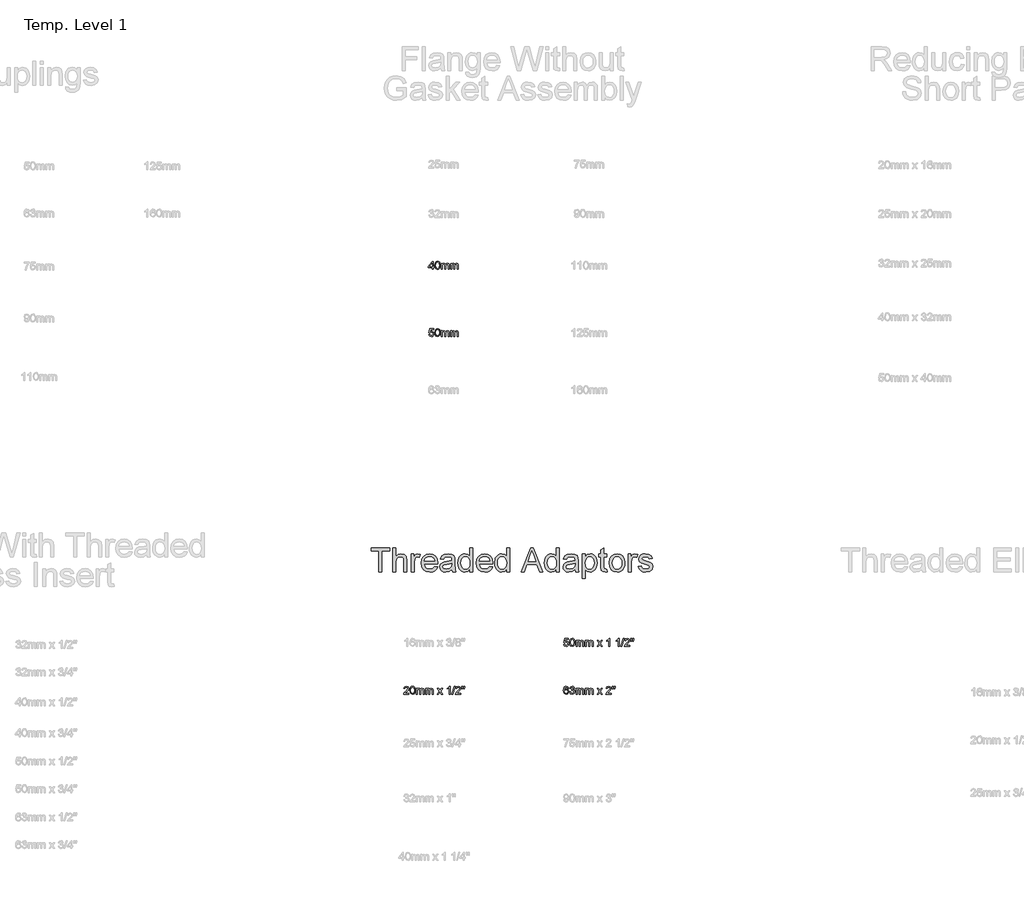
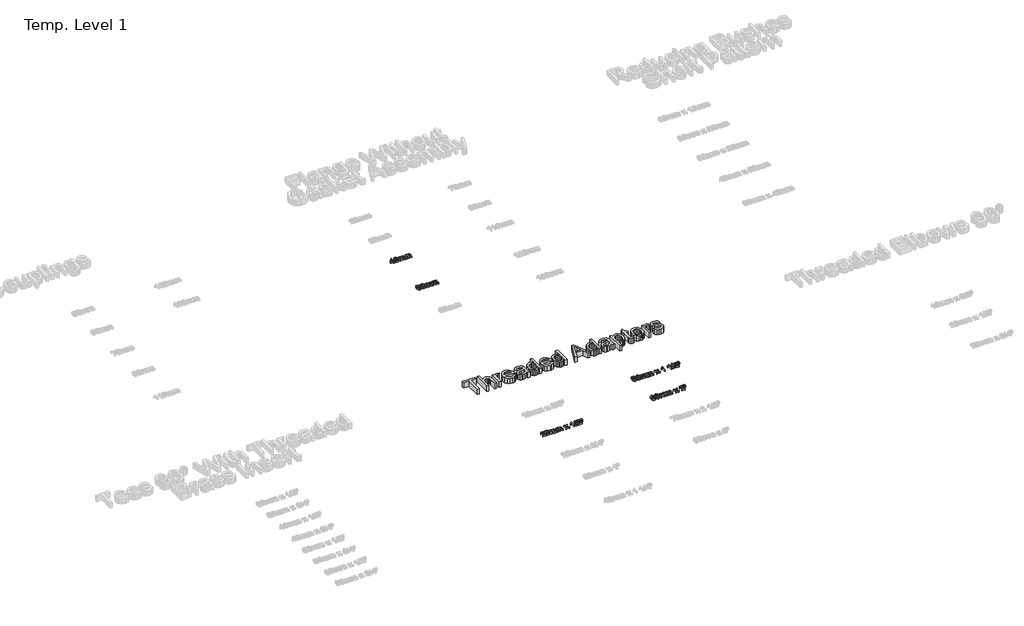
# One storey, part 21 of 62: 6 proxies.
"""IFC4 building model written with IfcOpenShell, lengths in millimetres."""

from ifc_helpers import new_model, si_unit, origin, origin_with_axes, place, context, project, spatial, polyline, outline, extrude, element, save

model = new_model("IFC4")

# Units and contexts
model_context = context("Model", 3, world=origin())
ifc_project = project(units=[si_unit("LENGTHUNIT", "METRE", prefix="MILLI")], contexts=[model_context])

# Site, building, storey
site = spatial("IfcSite", under=ifc_project)
building = spatial("IfcBuilding", under=site)
storey = spatial("IfcBuildingStorey", under=building, Name="Temp. Level 1", Elevation=0.0)

# Proxies
placement = place(None, origin())
element("IfcBuildingElementProxy", 1, Name="150mm Arial", ObjectType="150mm Arial", at=placement, inside=storey, context=model_context, shape_type="SweptSolid", body=[
    extrude(outline(polyline([(20597.6560981, -10070.198517), (20597.6560981, -9940.9677478), (20549.1945596, -9940.9677478), (20549.1945596, -9922.5062093), (20664.579175, -9922.5062093), (20664.579175, -9940.9677478), (20616.1176365, -9940.9677478), (20616.1176365, -10070.198517), (20597.6560981, -10070.198517)])), origin_with_axes(), (0.0, 0.0, 1.0), 50.0),
    extrude(outline(polyline([(20683.0407135, -10070.198517), (20683.0407135, -9922.5062093), (20701.5022519, -9922.5062093), (20701.5022519, -9976.8090939), (20715.8982856, -9963.7742382), (20733.6296558, -9959.4292862), (20754.3628288, -9964.1708728), (20766.9469635, -9977.2778439), (20770.7330212, -10001.5446709), (20770.7330212, -10070.198517), (20752.2714827, -10070.198517), (20752.2714827, -10003.4557286), (20750.8021317, -9991.8992382), (20746.3940788, -9983.9845747), (20739.2907135, -9979.4142622), (20729.735425, -9977.8908247), (20714.6092231, -9982.0014016), (20704.5130692, -9993.1432286), (20701.5022519, -10012.5783247), (20701.5022519, -10070.198517), (20683.0407135, -10070.198517)])), origin_with_axes(), (0.0, 0.0, 1.0), 50.0),
    extrude(outline(polyline([(20796.1176365, -10070.198517), (20796.1176365, -9961.7369786), (20812.2714827, -9961.7369786), (20812.2714827, -9977.7826516), (20823.7378288, -9962.9989978), (20835.2762904, -9959.4292862), (20853.8099442, -9965.1264016), (20847.6440788, -9981.6768824), (20834.6633096, -9977.8908247), (20824.2246077, -9981.5326516), (20817.5719635, -9991.6288055), (20814.579175, -10013.1913055), (20814.579175, -10070.198517), (20796.1176365, -10070.198517)])), origin_with_axes(), (0.0, 0.0, 1.0), 50.0),
    extrude(outline(polyline([(20941.2859058, -10037.8908247), (20959.3868673, -10040.198517), (20952.8649322, -10053.8373391), (20942.4577808, -10064.0326516), (20928.399788, -10070.3878199), (20910.9253288, -10072.5062093), (20889.2636702, -10068.8508608), (20872.5960019, -10057.8848151), (20861.9679971, -10040.3202117), (20858.4253288, -10016.8691901), (20862.0040548, -9992.6294064), (20872.7402327, -9974.5014016), (20889.1825404, -9963.1973151), (20909.8796558, -9959.4292862), (20929.9322399, -9963.1883007), (20945.9553769, -9974.4653439), (20956.461687, -9992.5572911), (20959.9637904, -10016.761017), (20959.8556173, -10021.7369786), (20876.8868673, -10021.7369786), (20880.0824803, -10035.5560891), (20887.5058577, -10045.7153439), (20898.2194995, -10051.9623391), (20911.2859058, -10054.0446709), (20929.3868673, -10050.1864978), (20941.2859058, -10037.8908247)]), holes=[polyline([(20876.8868673, -10003.2754401), (20941.5022519, -10003.2754401), (20939.0052567, -9993.5218343), (20934.110425, -9986.5446709), (20923.3472038, -9980.0542862), (20909.8075404, -9977.8908247), (20897.3631293, -9979.6170867), (20887.0731654, -9984.7958728), (20879.9202207, -9992.8682887), (20876.8868673, -10003.2754401)])]), origin_with_axes(), (0.0, 0.0, 1.0), 50.0),
    extrude(outline(polyline([(21047.6560981, -10056.3523632), (21029.7534538, -10068.8643824), (21009.9758096, -10072.5062093), (20994.5476245, -10070.3157045), (20983.1669154, -10063.7441901), (20976.149187, -10053.7652237), (20973.8099442, -10041.3523632), (20977.3435981, -10026.7489978), (20986.6284538, -10016.1480362), (20999.5551365, -10010.0903439), (21015.5286942, -10007.3139016), (21047.547925, -10000.9677478), (21047.6560981, -9996.8571709), (21046.3850644, -9988.6179882), (21042.5719635, -9983.2273632), (21034.0443192, -9979.2249593), (21022.1633096, -9977.8908247), (21003.485425, -9981.4425074), (20994.579175, -9994.0446709), (20976.1176365, -9991.7369786), (20984.1044154, -9973.7081324), (21000.1861462, -9963.1432286), (21024.5431173, -9959.4292862), (21046.9169154, -9962.7105362), (21059.5551365, -9970.9497189), (21065.2161942, -9983.479767), (21066.1176365, -9999.6336132), (21066.1176365, -10022.6023632), (21067.0551365, -10054.6756805), (21070.7330212, -10070.198517), (21052.2714827, -10070.198517), (21047.6560981, -10056.3523632)]), holes=[polyline([(21047.6560981, -10019.4292862), (21017.8724442, -10025.0903439), (21001.9890308, -10028.0831324), (20994.7955212, -10032.9509209), (20992.2714827, -10040.0542862), (20997.7702808, -10050.042267), (21013.9060981, -10054.0446709), (21032.5839827, -10049.6276036), (21044.6272519, -10038.9364978), (21047.547925, -10024.6576516), (21047.6560981, -10019.4292862)])]), origin_with_axes(), (0.0, 0.0, 1.0), 50.0),
    extrude(outline(polyline([(21158.4253288, -10070.198517), (21158.4253288, -10052.7826516), (21146.2107856, -10067.5753199), (21129.3267712, -10072.5062093), (21117.391675, -10070.7213536), (21106.4661942, -10065.3667862), (21097.2173962, -10056.816606), (21090.3123481, -10045.4449112), (21086.0124683, -10031.7114377), (21084.579175, -10016.0759209), (21089.8616269, -9986.6889016), (21096.4601846, -9975.0332526), (21105.6909538, -9966.4605362), (21116.8553168, -9961.1870987), (21129.2546558, -9959.4292862), (21146.2738865, -9964.4593343), (21158.4253288, -9977.5302478), (21158.4253288, -9922.5062093), (21176.8868673, -9922.5062093), (21176.8868673, -10070.198517), (21158.4253288, -10070.198517)]), holes=[polyline([(21103.0407135, -10016.0038055), (21105.1230452, -10032.7030242), (21111.3700404, -10044.5795266), (21120.4475644, -10051.6783848), (21131.0214827, -10054.0446709), (21141.5908938, -10051.7865579), (21150.43855, -10045.0122189), (21156.4286341, -10033.5954521), (21158.4253288, -10017.4100555), (21156.3925764, -9999.714743), (21150.2943192, -9987.4461132), (21141.2213024, -9980.2796468), (21130.2642712, -9977.8908247), (21119.5821798, -9980.1849954), (21110.829175, -9987.0675074), (21104.9878288, -9998.8899233), (21103.0407135, -10016.0038055)])]), origin_with_axes(), (0.0, 0.0, 1.0), 50.0),
    extrude(outline(polyline([(21280.516675, -10037.8908247), (21298.6176365, -10040.198517), (21292.0957014, -10053.8373391), (21281.68855, -10064.0326516), (21267.6305572, -10070.3878199), (21250.1560981, -10072.5062093), (21228.4944394, -10068.8508608), (21211.8267712, -10057.8848151), (21201.1987663, -10040.3202117), (21197.6560981, -10016.8691901), (21201.234824, -9992.6294064), (21211.9710019, -9974.5014016), (21228.4133096, -9963.1973151), (21249.110425, -9959.4292862), (21269.1630091, -9963.1883007), (21285.1861462, -9974.4653439), (21295.6924563, -9992.5572911), (21299.1945596, -10016.761017), (21299.0863865, -10021.7369786), (21216.1176365, -10021.7369786), (21219.3132495, -10035.5560891), (21226.7366269, -10045.7153439), (21237.4502688, -10051.9623391), (21250.516675, -10054.0446709), (21268.6176365, -10050.1864978), (21280.516675, -10037.8908247)]), holes=[polyline([(21216.1176365, -10003.2754401), (21280.7330212, -10003.2754401), (21278.236026, -9993.5218343), (21273.3411942, -9986.5446709), (21262.5779731, -9980.0542862), (21249.0383096, -9977.8908247), (21236.5938986, -9979.6170867), (21226.3039346, -9984.7958728), (21219.1509899, -9992.8682887), (21216.1176365, -10003.2754401)])]), origin_with_axes(), (0.0, 0.0, 1.0), 50.0),
    extrude(outline(polyline([(21384.579175, -10070.198517), (21384.579175, -10052.7826516), (21372.3646317, -10067.5753199), (21355.4806173, -10072.5062093), (21343.5455212, -10070.7213536), (21332.6200404, -10065.3667862), (21323.3712423, -10056.816606), (21316.4661942, -10045.4449112), (21312.1663144, -10031.7114377), (21310.7330212, -10016.0759209), (21316.0154731, -9986.6889016), (21322.6140308, -9975.0332526), (21331.8448, -9966.4605362), (21343.009163, -9961.1870987), (21355.4085019, -9959.4292862), (21372.4277327, -9964.4593343), (21384.579175, -9977.5302478), (21384.579175, -9922.5062093), (21403.0407135, -9922.5062093), (21403.0407135, -10070.198517), (21384.579175, -10070.198517)]), holes=[polyline([(21329.1945596, -10016.0038055), (21331.2768913, -10032.7030242), (21337.5238865, -10044.5795266), (21346.6014106, -10051.6783848), (21357.1753288, -10054.0446709), (21367.7447399, -10051.7865579), (21376.5923962, -10045.0122189), (21382.5824803, -10033.5954521), (21384.579175, -10017.4100555), (21382.5464226, -9999.714743), (21376.4481654, -9987.4461132), (21367.3751486, -9980.2796468), (21356.4181173, -9977.8908247), (21345.736026, -9980.1849954), (21336.9830212, -9987.0675074), (21331.141675, -9998.8899233), (21329.1945596, -10016.0038055)])]), origin_with_axes(), (0.0, 0.0, 1.0), 50.0),
    extrude(outline(polyline([(21473.5335019, -10070.198517), (21532.4878288, -9922.5062093), (21548.2089827, -9922.5062093), (21607.1633096, -10070.198517), (21587.6560981, -10070.198517), (21570.7450404, -10024.0446709), (21509.9157135, -10024.0446709), (21493.0407135, -10070.198517), (21473.5335019, -10070.198517)]), holes=[polyline([(21516.6945596, -10005.5831324), (21564.0022519, -10005.5831324), (21550.6969635, -9969.2730362), (21540.3484058, -9940.9677478), (21531.1536942, -9966.0999593), (21516.6945596, -10005.5831324)])]), origin_with_axes(), (0.0, 0.0, 1.0), 50.0),
    extrude(outline(polyline([(21691.5022519, -10070.198517), (21691.5022519, -10052.7826516), (21679.2877087, -10067.5753199), (21662.4036942, -10072.5062093), (21650.4685981, -10070.7213536), (21639.5431173, -10065.3667862), (21630.2943192, -10056.816606), (21623.3892712, -10045.4449112), (21619.0893913, -10031.7114377), (21617.6560981, -10016.0759209), (21622.93855, -9986.6889016), (21629.5371077, -9975.0332526), (21638.7678769, -9966.4605362), (21649.9322399, -9961.1870987), (21662.3315788, -9959.4292862), (21679.3508096, -9964.4593343), (21691.5022519, -9977.5302478), (21691.5022519, -9922.5062093), (21709.9637904, -9922.5062093), (21709.9637904, -10070.198517), (21691.5022519, -10070.198517)]), holes=[polyline([(21636.1176365, -10016.0038055), (21638.1999683, -10032.7030242), (21644.4469635, -10044.5795266), (21653.5244875, -10051.6783848), (21664.0984058, -10054.0446709), (21674.6678168, -10051.7865579), (21683.5154731, -10045.0122189), (21689.5055572, -10033.5954521), (21691.5022519, -10017.4100555), (21689.4694995, -9999.714743), (21683.3712423, -9987.4461132), (21674.2982255, -9980.2796468), (21663.3411942, -9977.8908247), (21652.6591029, -9980.1849954), (21643.9060981, -9987.0675074), (21638.0647519, -9998.8899233), (21636.1176365, -10016.0038055)])]), origin_with_axes(), (0.0, 0.0, 1.0), 50.0),
    extrude(outline(polyline([(21806.8868673, -10056.3523632), (21788.9842231, -10068.8643824), (21769.2065788, -10072.5062093), (21753.7783938, -10070.3157045), (21742.3976846, -10063.7441901), (21735.3799563, -10053.7652237), (21733.0407135, -10041.3523632), (21736.5743673, -10026.7489978), (21745.8592231, -10016.1480362), (21758.7859058, -10010.0903439), (21774.7594635, -10007.3139016), (21806.7786942, -10000.9677478), (21806.8868673, -9996.8571709), (21805.6158337, -9988.6179882), (21801.8027327, -9983.2273632), (21793.2750885, -9979.2249593), (21781.3940788, -9977.8908247), (21762.7161942, -9981.4425074), (21753.8099442, -9994.0446709), (21735.3484058, -9991.7369786), (21743.3351846, -9973.7081324), (21759.4169154, -9963.1432286), (21783.7738865, -9959.4292862), (21806.1476846, -9962.7105362), (21818.7859058, -9970.9497189), (21824.4469635, -9983.479767), (21825.3484058, -9999.6336132), (21825.3484058, -10022.6023632), (21826.2859058, -10054.6756805), (21829.9637904, -10070.198517), (21811.5022519, -10070.198517), (21806.8868673, -10056.3523632)]), holes=[polyline([(21806.8868673, -10019.4292862), (21777.1032135, -10025.0903439), (21761.2198, -10028.0831324), (21754.0262904, -10032.9509209), (21751.5022519, -10040.0542862), (21757.00105, -10050.042267), (21773.1368673, -10054.0446709), (21791.8147519, -10049.6276036), (21803.8580212, -10038.9364978), (21806.7786942, -10024.6576516), (21806.8868673, -10019.4292862)])]), origin_with_axes(), (0.0, 0.0, 1.0), 50.0),
    extrude(outline(polyline([(21850.7330212, -10111.7369786), (21850.7330212, -9961.7369786), (21869.1945596, -9961.7369786), (21869.1945596, -9979.8379401), (21881.9589827, -9964.5314497), (21899.1945596, -9959.4292862), (21911.6795356, -9961.214142), (21922.5960019, -9966.5687093), (21931.4842231, -9975.1684689), (21937.8844635, -9986.6889016), (21943.0407135, -10015.1384209), (21941.5848841, -10030.9271829), (21937.2173962, -10045.0482766), (21930.0779731, -10056.7850555), (21920.3063385, -10065.4208728), (21908.9256293, -10070.7348752), (21896.9589827, -10072.5062093), (21880.8952808, -10067.7646228), (21869.1945596, -10055.7754401), (21869.1945596, -10111.7369786), (21850.7330212, -10111.7369786)]), holes=[polyline([(21869.1945596, -10016.8331324), (21871.1912543, -10033.3836132), (21877.1813385, -10044.9581324), (21886.0199803, -10051.7730362), (21896.5623481, -10054.0446709), (21907.2759899, -10051.6919064), (21916.3399923, -10044.6336132), (21922.5193793, -10032.6354161), (21924.579175, -10015.4629401), (21922.5689587, -9999.0026036), (21916.5383096, -9987.2658247), (21907.7131894, -9980.2345747), (21897.3195596, -9977.8908247), (21886.8853649, -9980.3833127), (21877.7222038, -9987.8607766), (21871.3264707, -10000.0888415), (21869.1945596, -10016.8331324)])]), origin_with_axes(), (0.0, 0.0, 1.0), 50.0),
    extrude(outline(polyline([(22003.0407135, -10054.8018824), (22005.3484058, -10070.7393824), (21991.5383096, -10072.5062093), (21976.0695596, -10069.4413055), (21968.3532135, -10061.4004401), (21966.1176365, -10040.4509209), (21966.1176365, -9980.198517), (21952.2714827, -9980.198517), (21952.2714827, -9961.7369786), (21966.1176365, -9961.7369786), (21966.1176365, -9935.3788055), (21984.579175, -9924.5254401), (21984.579175, -9961.7369786), (22003.0407135, -9961.7369786), (22003.0407135, -9980.198517), (21984.579175, -9980.198517), (21984.579175, -10039.9100555), (21985.5527327, -10049.4292862), (21988.7077808, -10052.8006805), (21994.9998481, -10054.0446709), (22003.0407135, -10054.8018824)])), origin_with_axes(), (0.0, 0.0, 1.0), 50.0),
    extrude(outline(polyline([(22016.8868673, -10015.9677478), (22020.8802567, -9989.8169064), (22032.860425, -9971.4364978), (22047.6621077, -9962.4310891), (22065.3844635, -9959.4292862), (22084.7789947, -9963.0846348), (22100.2702808, -9974.0506805), (22110.4250284, -9991.4620387), (22113.8099442, -10014.4533247), (22112.31355, -10033.1041661), (22107.8243673, -10047.3018824), (22100.4731053, -10057.9343944), (22090.3904731, -10065.8896228), (22078.414812, -10070.8520627), (22065.3844635, -10072.5062093), (22045.7555572, -10068.8643824), (22030.2823, -10057.9389016), (22020.2357255, -10040.1624593), (22016.8868673, -10015.9677478)]), holes=[polyline([(22035.3484058, -10015.9316901), (22037.484824, -10032.6399233), (22043.8940788, -10044.5434689), (22053.5395115, -10051.6693704), (22065.3844635, -10054.0446709), (22077.1753288, -10051.6558487), (22086.8027327, -10044.4893824), (22093.2119875, -10032.4280843), (22095.3484058, -10015.354767), (22093.1984659, -9999.1333127), (22086.7486462, -9987.3920266), (22077.1077207, -9980.2661252), (22065.3844635, -9977.8908247), (22053.5395115, -9980.2571108), (22043.8940788, -9987.3559689), (22037.484824, -9999.2324713), (22035.3484058, -10015.9316901)])]), origin_with_axes(), (0.0, 0.0, 1.0), 50.0),
    extrude(outline(polyline([(22134.579175, -10070.198517), (22134.579175, -9961.7369786), (22150.7330212, -9961.7369786), (22150.7330212, -9977.7826516), (22162.1993673, -9962.9989978), (22173.7378288, -9959.4292862), (22192.2714827, -9965.1264016), (22186.1056173, -9981.6768824), (22173.1248481, -9977.8908247), (22162.6861462, -9981.5326516), (22156.0335019, -9991.6288055), (22153.0407135, -10013.1913055), (22153.0407135, -10070.198517), (22134.579175, -10070.198517)])), origin_with_axes(), (0.0, 0.0, 1.0), 50.0),
    extrude(outline(polyline([(22196.8868673, -10037.8908247), (22215.3484058, -10035.5831324), (22218.2600644, -10043.479767), (22223.8940788, -10049.2850555), (22243.4734058, -10054.0446709), (22262.2955212, -10049.6816901), (22268.4253288, -10039.4413055), (22262.2594635, -10031.1480362), (22243.2570596, -10025.8836132), (22215.4565788, -10016.8511612), (22203.3231654, -10006.3042862), (22199.1945596, -9991.4124593), (22202.5118673, -9977.6564497), (22211.5623481, -9967.1456324), (22223.2991269, -9961.682892), (22239.1825404, -9959.4292862), (22261.6464827, -9963.0530843), (22275.9253288, -9972.8607766), (22282.2714827, -9989.4292862), (22263.8099442, -9991.7369786), (22256.8688385, -9981.5506805), (22240.6248481, -9977.8908247), (22222.9565788, -9981.3884209), (22217.6560981, -9989.5374593), (22219.8556173, -9994.9100555), (22226.7426365, -9998.9845747), (22242.6440788, -10002.9148632), (22269.7414346, -10011.604767), (22282.3255692, -10021.448517), (22286.8868673, -10037.4941901), (22281.5323, -10055.1624593), (22266.0815788, -10067.9809689), (22243.2210019, -10072.5062093), (22224.6062183, -10070.3247189), (22211.0214827, -10063.7802478), (22201.9529731, -10052.9449112), (22196.8868673, -10037.8908247)])), origin_with_axes(), (0.0, 0.0, 1.0), 50.0),
])
element("IfcBuildingElementProxy", 2, Name="50mm Arial", ObjectType="50mm Arial", at=placement, inside=storey, context=model_context, shape_type="SweptSolid", body=[
    extrude(outline(polyline([(20925.2361186, -8205.198517), (20925.2361186, -8193.6600555), (20902.9284263, -8193.6600555), (20902.9284263, -8187.5062093), (20926.7745802, -8156.7369786), (20931.3899648, -8156.7369786), (20931.3899648, -8187.5062093), (20937.5438109, -8187.5062093), (20937.5438109, -8193.6600555), (20931.3899648, -8193.6600555), (20931.3899648, -8205.198517), (20925.2361186, -8205.198517)]), holes=[polyline([(20925.2361186, -8187.5062093), (20925.2361186, -8168.4917862), (20910.5005417, -8187.5062093), (20925.2361186, -8187.5062093)])]), origin_with_axes(), (0.0, 0.0, 1.0), 15.0),
    extrude(outline(polyline([(20942.9284263, -8180.979767), (20944.7373206, -8166.8151036), (20950.1099167, -8158.6480362), (20959.0822725, -8155.9677478), (20966.2697725, -8157.5542862), (20971.2337148, -8162.1276036), (20974.1183302, -8169.4112574), (20975.2361186, -8180.979767), (20973.4452533, -8195.0843343), (20968.0906859, -8203.2694305), (20959.0822725, -8205.9677478), (20947.8322725, -8201.2802478), (20944.1543879, -8192.9539257), (20942.9284263, -8180.979767)]), holes=[polyline([(20949.0822725, -8180.9677478), (20951.9668879, -8196.2501997), (20959.0822725, -8199.8139016), (20966.1976571, -8196.2381805), (20969.0822725, -8180.9677478), (20966.2938109, -8165.8595747), (20959.0101571, -8162.1215939), (20952.0630417, -8165.4148632), (20949.0822725, -8180.9677478)])]), origin_with_axes(), (0.0, 0.0, 1.0), 15.0),
    extrude(outline(polyline([(20982.1591956, -8205.198517), (20982.1591956, -8169.0446709), (20988.3130417, -8169.0446709), (20988.3130417, -8174.9941901), (20992.5438109, -8170.120392), (20998.5654456, -8168.2754401), (21004.7313109, -8170.1564497), (21008.120734, -8175.4268824), (21012.9224167, -8170.0633007), (21018.9861186, -8168.2754401), (21027.0329936, -8171.2501997), (21029.8515033, -8180.4148632), (21029.8515033, -8205.198517), (21023.6976571, -8205.198517), (21023.6976571, -8183.0590939), (21023.1267436, -8177.9208728), (21021.0594359, -8175.3908247), (21017.5438109, -8174.4292862), (21011.4921283, -8176.8932286), (21009.0822725, -8184.7898632), (21009.0822725, -8205.198517), (21002.9284263, -8205.198517), (21002.9284263, -8182.3739978), (21001.5041475, -8176.4124593), (20996.8346763, -8174.4292862), (20992.2793879, -8175.7514016), (20989.2505417, -8179.6215939), (20988.3130417, -8186.9653439), (20988.3130417, -8205.198517), (20982.1591956, -8205.198517)])), origin_with_axes(), (0.0, 0.0, 1.0), 15.0),
    extrude(outline(polyline([(21039.0822725, -8205.198517), (21039.0822725, -8169.0446709), (21045.2361186, -8169.0446709), (21045.2361186, -8174.9941901), (21049.4668879, -8170.120392), (21055.4885225, -8168.2754401), (21061.6543879, -8170.1564497), (21065.0438109, -8175.4268824), (21069.8454936, -8170.0633007), (21075.9091956, -8168.2754401), (21083.9560706, -8171.2501997), (21086.7745802, -8180.4148632), (21086.7745802, -8205.198517), (21080.620734, -8205.198517), (21080.620734, -8183.0590939), (21080.0498206, -8177.9208728), (21077.9825129, -8175.3908247), (21074.4668879, -8174.4292862), (21068.4152052, -8176.8932286), (21066.0053494, -8184.7898632), (21066.0053494, -8205.198517), (21059.8515033, -8205.198517), (21059.8515033, -8182.3739978), (21058.4272244, -8176.4124593), (21053.7577533, -8174.4292862), (21049.2024648, -8175.7514016), (21046.1736186, -8179.6215939), (21045.2361186, -8186.9653439), (21045.2361186, -8205.198517), (21039.0822725, -8205.198517)])), origin_with_axes(), (0.0, 0.0, 1.0), 15.0),
])
element("IfcBuildingElementProxy", 3, Name="50mm Arial", ObjectType="50mm Arial", at=placement, inside=storey, context=model_context, shape_type="SweptSolid", body=[
    extrude(outline(polyline([(20905.2361186, -8606.8824542), (20911.3899648, -8606.1132234), (20914.4909263, -8612.4533677), (20920.9212148, -8614.5747619), (20928.6375609, -8611.6240407), (20931.3899648, -8603.7935119), (20928.8118398, -8596.4858196), (20921.0173686, -8593.8055311), (20915.6147244, -8594.8752427), (20912.1591956, -8597.651685), (20906.0053494, -8596.8824542), (20911.3899648, -8571.4978388), (20935.2361186, -8571.4978388), (20935.2361186, -8577.651685), (20916.3659263, -8577.651685), (20913.7337148, -8591.2093773), (20922.7361186, -8587.651685), (20933.2589552, -8592.0627427), (20937.5438109, -8603.4088965), (20933.6856379, -8614.8271657), (20928.1447725, -8619.2532475), (20920.8971763, -8620.728608), (20910.0378013, -8616.9365407), (20905.2361186, -8606.8824542)])), origin_with_axes(), (0.0, 0.0, 1.0), 15.0),
    extrude(outline(polyline([(20942.9284263, -8595.7406273), (20944.7373206, -8581.5759638), (20950.1099167, -8573.4088965), (20959.0822725, -8570.728608), (20966.2697725, -8572.3151465), (20971.2337148, -8576.8884638), (20974.1183302, -8584.1721177), (20975.2361186, -8595.7406273), (20973.4452533, -8609.8451946), (20968.0906859, -8618.0302907), (20959.0822725, -8620.728608), (20947.8322725, -8616.041108), (20944.1543879, -8607.7147859), (20942.9284263, -8595.7406273)]), holes=[polyline([(20949.0822725, -8595.728608), (20951.9668879, -8611.01106), (20959.0822725, -8614.5747619), (20966.1976571, -8610.9990407), (20969.0822725, -8595.728608), (20966.2938109, -8580.620435), (20959.0101571, -8576.8824542), (20952.0630417, -8580.1757234), (20949.0822725, -8595.728608)])]), origin_with_axes(), (0.0, 0.0, 1.0), 15.0),
    extrude(outline(polyline([(20982.1591956, -8619.9593773), (20982.1591956, -8583.8055311), (20988.3130417, -8583.8055311), (20988.3130417, -8589.7550504), (20992.5438109, -8584.8812523), (20998.5654456, -8583.0363004), (21004.7313109, -8584.91731), (21008.120734, -8590.1877427), (21012.9224167, -8584.8241609), (21018.9861186, -8583.0363004), (21027.0329936, -8586.01106), (21029.8515033, -8595.1757234), (21029.8515033, -8619.9593773), (21023.6976571, -8619.9593773), (21023.6976571, -8597.8199542), (21023.1267436, -8592.681733), (21021.0594359, -8590.151685), (21017.5438109, -8589.1901465), (21011.4921283, -8591.6540888), (21009.0822725, -8599.5507234), (21009.0822725, -8619.9593773), (21002.9284263, -8619.9593773), (21002.9284263, -8597.134858), (21001.5041475, -8591.1733196), (20996.8346763, -8589.1901465), (20992.2793879, -8590.5122619), (20989.2505417, -8594.3824542), (20988.3130417, -8601.7262042), (20988.3130417, -8619.9593773), (20982.1591956, -8619.9593773)])), origin_with_axes(), (0.0, 0.0, 1.0), 15.0),
    extrude(outline(polyline([(21039.0822725, -8619.9593773), (21039.0822725, -8583.8055311), (21045.2361186, -8583.8055311), (21045.2361186, -8589.7550504), (21049.4668879, -8584.8812523), (21055.4885225, -8583.0363004), (21061.6543879, -8584.91731), (21065.0438109, -8590.1877427), (21069.8454936, -8584.8241609), (21075.9091956, -8583.0363004), (21083.9560706, -8586.01106), (21086.7745802, -8595.1757234), (21086.7745802, -8619.9593773), (21080.620734, -8619.9593773), (21080.620734, -8597.8199542), (21080.0498206, -8592.681733), (21077.9825129, -8590.151685), (21074.4668879, -8589.1901465), (21068.4152052, -8591.6540888), (21066.0053494, -8599.5507234), (21066.0053494, -8619.9593773), (21059.8515033, -8619.9593773), (21059.8515033, -8597.134858), (21058.4272244, -8591.1733196), (21053.7577533, -8589.1901465), (21049.2024648, -8590.5122619), (21046.1736186, -8594.3824542), (21045.2361186, -8601.7262042), (21045.2361186, -8619.9593773), (21039.0822725, -8619.9593773)])), origin_with_axes(), (0.0, 0.0, 1.0), 15.0),
])
element("IfcBuildingElementProxy", 4, Name="50mm Arial", ObjectType="50mm Arial", at=placement, inside=storey, context=model_context, shape_type="SweptSolid", body=[
    extrude(outline(polyline([(20782.7136124, -10819.0446709), (20782.7136124, -10825.198517), (20750.4059201, -10825.198517), (20751.0669778, -10820.9557286), (20754.8049586, -10814.4232766), (20762.5092855, -10807.2898632), (20773.1342855, -10797.0374593), (20775.7905355, -10790.0663055), (20773.2845259, -10784.4232766), (20766.7400547, -10782.1215939), (20759.9191413, -10784.3691901), (20757.3289971, -10790.5831324), (20751.1751509, -10789.8139016), (20755.892699, -10779.5134209), (20766.8722663, -10775.9677478), (20777.8878913, -10779.9100555), (20781.9443817, -10789.6937093), (20780.8506317, -10795.5290459), (20777.2148144, -10801.5626997), (20768.3987086, -10809.9941901), (20761.3193817, -10815.9136612), (20758.5429394, -10819.0446709), (20782.7136124, -10819.0446709)])), origin_with_axes(), (0.0, 0.0, 1.0), 15.0),
    extrude(outline(polyline([(20788.8674586, -10800.979767), (20790.6763528, -10786.8151036), (20796.048949, -10778.6480362), (20805.0213047, -10775.9677478), (20812.2088047, -10777.5542862), (20817.1727471, -10782.1276036), (20820.0573624, -10789.4112574), (20821.1751509, -10800.979767), (20819.3842855, -10815.0843343), (20814.0297182, -10823.2694305), (20805.0213047, -10825.9677478), (20793.7713047, -10821.2802478), (20790.0934201, -10812.9539257), (20788.8674586, -10800.979767)]), holes=[polyline([(20795.0213047, -10800.9677478), (20797.9059201, -10816.2501997), (20805.0213047, -10819.8139016), (20812.1366894, -10816.2381805), (20815.0213047, -10800.9677478), (20812.2328432, -10785.8595747), (20804.9491894, -10782.1215939), (20798.002074, -10785.4148632), (20795.0213047, -10800.9677478)])]), origin_with_axes(), (0.0, 0.0, 1.0), 15.0),
    extrude(outline(polyline([(20828.0982278, -10825.198517), (20828.0982278, -10789.0446709), (20834.252074, -10789.0446709), (20834.252074, -10794.9941901), (20838.4828432, -10790.120392), (20844.5044778, -10788.2754401), (20850.6703432, -10790.1564497), (20854.0597663, -10795.4268824), (20858.861449, -10790.0633007), (20864.9251509, -10788.2754401), (20872.9720259, -10791.2501997), (20875.7905355, -10800.4148632), (20875.7905355, -10825.198517), (20869.6366894, -10825.198517), (20869.6366894, -10803.0590939), (20869.0657759, -10797.9208728), (20866.9984682, -10795.3908247), (20863.4828432, -10794.4292862), (20857.4311605, -10796.8932286), (20855.0213047, -10804.7898632), (20855.0213047, -10825.198517), (20848.8674586, -10825.198517), (20848.8674586, -10802.3739978), (20847.4431797, -10796.4124593), (20842.7737086, -10794.4292862), (20838.2184201, -10795.7514016), (20835.189574, -10799.6215939), (20834.252074, -10806.9653439), (20834.252074, -10825.198517), (20828.0982278, -10825.198517)])), origin_with_axes(), (0.0, 0.0, 1.0), 15.0),
    extrude(outline(polyline([(20885.0213047, -10825.198517), (20885.0213047, -10789.0446709), (20891.1751509, -10789.0446709), (20891.1751509, -10794.9941901), (20895.4059201, -10790.120392), (20901.4275547, -10788.2754401), (20907.5934201, -10790.1564497), (20910.9828432, -10795.4268824), (20915.7845259, -10790.0633007), (20921.8482278, -10788.2754401), (20929.8951028, -10791.2501997), (20932.7136124, -10800.4148632), (20932.7136124, -10825.198517), (20926.5597663, -10825.198517), (20926.5597663, -10803.0590939), (20925.9888528, -10797.9208728), (20923.9215451, -10795.3908247), (20920.4059201, -10794.4292862), (20914.3542374, -10796.8932286), (20911.9443817, -10804.7898632), (20911.9443817, -10825.198517), (20905.7905355, -10825.198517), (20905.7905355, -10802.3739978), (20904.3662567, -10796.4124593), (20899.6967855, -10794.4292862), (20895.1414971, -10795.7514016), (20892.1126509, -10799.6215939), (20891.1751509, -10806.9653439), (20891.1751509, -10825.198517), (20885.0213047, -10825.198517)])), origin_with_axes(), (0.0, 0.0, 1.0), 15.0),
    extrude(outline(polyline([(20957.3289971, -10825.198517), (20970.4780355, -10807.0254401), (20958.0982278, -10789.0446709), (20965.502074, -10789.0446709), (20971.4756317, -10797.698517), (20974.2640932, -10801.7850555), (20976.6799586, -10798.4437093), (20983.4828432, -10789.0446709), (20990.8866894, -10789.0446709), (20977.8818817, -10807.0254401), (20990.4059201, -10825.198517), (20983.002074, -10825.198517), (20975.4660163, -10814.2730362), (20974.0838047, -10812.2778439), (20964.7328432, -10825.198517), (20957.3289971, -10825.198517)])), origin_with_axes(), (0.0, 0.0, 1.0), 15.0),
    extrude(outline(polyline([(21036.5597663, -10825.198517), (21030.4059201, -10825.198517), (21030.4059201, -10786.8331324), (21024.5765932, -10790.9857766), (21018.0982278, -10794.0927478), (21018.0982278, -10788.2754401), (21027.1186605, -10782.5182286), (21032.5934201, -10775.9677478), (21036.5597663, -10775.9677478), (21036.5597663, -10825.198517)])), origin_with_axes(), (0.0, 0.0, 1.0), 15.0),
    extrude(outline(polyline([(21048.0982278, -10825.198517), (21061.9443817, -10775.9677478), (21067.4972663, -10775.9677478), (21053.6511124, -10825.198517), (21048.0982278, -10825.198517)])), origin_with_axes(), (0.0, 0.0, 1.0), 15.0),
    extrude(outline(polyline([(21101.9443817, -10819.0446709), (21101.9443817, -10825.198517), (21069.6366894, -10825.198517), (21070.2977471, -10820.9557286), (21074.0357278, -10814.4232766), (21081.7400547, -10807.2898632), (21092.3650547, -10797.0374593), (21095.0213047, -10790.0663055), (21092.5152951, -10784.4232766), (21085.970824, -10782.1215939), (21079.1499105, -10784.3691901), (21076.5597663, -10790.5831324), (21070.4059201, -10789.8139016), (21075.1234682, -10779.5134209), (21086.1030355, -10775.9677478), (21097.1186605, -10779.9100555), (21101.1751509, -10789.6937093), (21100.0814009, -10795.5290459), (21096.4455836, -10801.5626997), (21087.6294778, -10809.9941901), (21080.5501509, -10815.9136612), (21077.7737086, -10819.0446709), (21101.9443817, -10819.0446709)])), origin_with_axes(), (0.0, 0.0, 1.0), 15.0),
    extrude(outline(polyline([(21121.8722663, -10793.6600555), (21120.4059201, -10784.1528439), (21120.4059201, -10775.9677478), (21126.5597663, -10775.9677478), (21126.5597663, -10784.1528439), (21125.1174586, -10793.6600555), (21121.8722663, -10793.6600555)])), origin_with_axes(), (0.0, 0.0, 1.0), 15.0),
    extrude(outline(polyline([(21109.6006317, -10793.6600555), (21108.0982278, -10784.1528439), (21108.0982278, -10775.9677478), (21114.252074, -10775.9677478), (21114.252074, -10784.1528439), (21112.9059201, -10793.6600555), (21109.6006317, -10793.6600555)])), origin_with_axes(), (0.0, 0.0, 1.0), 15.0),
])
element("IfcBuildingElementProxy", 5, Name="50mm Arial", ObjectType="50mm Arial", at=placement, inside=storey, context=model_context, shape_type="SweptSolid", body=[
    extrude(outline(polyline([(21735.8008487, -10517.1215939), (21741.9546948, -10516.3523632), (21745.0556564, -10522.6925074), (21751.4859448, -10524.8139016), (21759.202291, -10521.8631805), (21761.9546948, -10514.0326516), (21759.3765698, -10506.7249593), (21751.5820987, -10504.0446709), (21746.1794545, -10505.1143824), (21742.7239256, -10507.8908247), (21736.5700795, -10507.1215939), (21741.9546948, -10481.7369786), (21765.8008487, -10481.7369786), (21765.8008487, -10487.8908247), (21746.9306564, -10487.8908247), (21744.2984448, -10501.448517), (21753.3008487, -10497.8908247), (21763.8236852, -10502.3018824), (21768.108541, -10513.6480362), (21764.2503679, -10525.0663055), (21758.7095025, -10529.4923872), (21751.4619064, -10530.9677478), (21740.6025314, -10527.1756805), (21735.8008487, -10517.1215939)])), origin_with_axes(), (0.0, 0.0, 1.0), 15.0),
    extrude(outline(polyline([(21773.4931564, -10505.979767), (21775.3020506, -10491.8151036), (21780.6746468, -10483.6480362), (21789.6470025, -10480.9677478), (21796.8345025, -10482.5542862), (21801.7984448, -10487.1276036), (21804.6830602, -10494.4112574), (21805.8008487, -10505.979767), (21804.0099833, -10520.0843343), (21798.655416, -10528.2694305), (21789.6470025, -10530.9677478), (21778.3970025, -10526.2802478), (21774.7191179, -10517.9539257), (21773.4931564, -10505.979767)]), holes=[polyline([(21779.6470025, -10505.9677478), (21782.5316179, -10521.2501997), (21789.6470025, -10524.8139016), (21796.7623871, -10521.2381805), (21799.6470025, -10505.9677478), (21796.858541, -10490.8595747), (21789.5748871, -10487.1215939), (21782.6277718, -10490.4148632), (21779.6470025, -10505.9677478)])]), origin_with_axes(), (0.0, 0.0, 1.0), 15.0),
    extrude(outline(polyline([(21812.7239256, -10530.198517), (21812.7239256, -10494.0446709), (21818.8777718, -10494.0446709), (21818.8777718, -10499.9941901), (21823.108541, -10495.120392), (21829.1301756, -10493.2754401), (21835.296041, -10495.1564497), (21838.6854641, -10500.4268824), (21843.4871468, -10495.0633007), (21849.5508487, -10493.2754401), (21857.5977237, -10496.2501997), (21860.4162333, -10505.4148632), (21860.4162333, -10530.198517), (21854.2623871, -10530.198517), (21854.2623871, -10508.0590939), (21853.6914737, -10502.9208728), (21851.624166, -10500.3908247), (21848.108541, -10499.4292862), (21842.0568583, -10501.8932286), (21839.6470025, -10509.7898632), (21839.6470025, -10530.198517), (21833.4931564, -10530.198517), (21833.4931564, -10507.3739978), (21832.0688775, -10501.4124593), (21827.3994064, -10499.4292862), (21822.8441179, -10500.7514016), (21819.8152718, -10504.6215939), (21818.8777718, -10511.9653439), (21818.8777718, -10530.198517), (21812.7239256, -10530.198517)])), origin_with_axes(), (0.0, 0.0, 1.0), 15.0),
    extrude(outline(polyline([(21869.6470025, -10530.198517), (21869.6470025, -10494.0446709), (21875.8008487, -10494.0446709), (21875.8008487, -10499.9941901), (21880.0316179, -10495.120392), (21886.0532525, -10493.2754401), (21892.2191179, -10495.1564497), (21895.608541, -10500.4268824), (21900.4102237, -10495.0633007), (21906.4739256, -10493.2754401), (21914.5208006, -10496.2501997), (21917.3393102, -10505.4148632), (21917.3393102, -10530.198517), (21911.1854641, -10530.198517), (21911.1854641, -10508.0590939), (21910.6145506, -10502.9208728), (21908.5472429, -10500.3908247), (21905.0316179, -10499.4292862), (21898.9799352, -10501.8932286), (21896.5700795, -10509.7898632), (21896.5700795, -10530.198517), (21890.4162333, -10530.198517), (21890.4162333, -10507.3739978), (21888.9919545, -10501.4124593), (21884.3224833, -10499.4292862), (21879.7671948, -10500.7514016), (21876.7383487, -10504.6215939), (21875.8008487, -10511.9653439), (21875.8008487, -10530.198517), (21869.6470025, -10530.198517)])), origin_with_axes(), (0.0, 0.0, 1.0), 15.0),
    extrude(outline(polyline([(21941.9546948, -10530.198517), (21955.1037333, -10512.0254401), (21942.7239256, -10494.0446709), (21950.1277718, -10494.0446709), (21956.1013295, -10502.698517), (21958.889791, -10506.7850555), (21961.3056564, -10503.4437093), (21968.108541, -10494.0446709), (21975.5123871, -10494.0446709), (21962.5075795, -10512.0254401), (21975.0316179, -10530.198517), (21967.6277718, -10530.198517), (21960.0917141, -10519.2730362), (21958.7095025, -10517.2778439), (21949.358541, -10530.198517), (21941.9546948, -10530.198517)])), origin_with_axes(), (0.0, 0.0, 1.0), 15.0),
    extrude(outline(polyline([(22021.1854641, -10530.198517), (22015.0316179, -10530.198517), (22015.0316179, -10491.8331324), (22009.202291, -10495.9857766), (22002.7239256, -10499.0927478), (22002.7239256, -10493.2754401), (22011.7443583, -10487.5182286), (22017.2191179, -10480.9677478), (22021.1854641, -10480.9677478), (22021.1854641, -10530.198517)])), origin_with_axes(), (0.0, 0.0, 1.0), 15.0),
    extrude(outline(polyline([(22078.108541, -10530.198517), (22071.9546948, -10530.198517), (22071.9546948, -10491.8331324), (22066.1253679, -10495.9857766), (22059.6470025, -10499.0927478), (22059.6470025, -10493.2754401), (22068.6674352, -10487.5182286), (22074.1421948, -10480.9677478), (22078.108541, -10480.9677478), (22078.108541, -10530.198517)])), origin_with_axes(), (0.0, 0.0, 1.0), 15.0),
    extrude(outline(polyline([(22089.6470025, -10530.198517), (22103.4931564, -10480.9677478), (22109.046041, -10480.9677478), (22095.1998871, -10530.198517), (22089.6470025, -10530.198517)])), origin_with_axes(), (0.0, 0.0, 1.0), 15.0),
    extrude(outline(polyline([(22143.4931564, -10524.0446709), (22143.4931564, -10530.198517), (22111.1854641, -10530.198517), (22111.8465218, -10525.9557286), (22115.5845025, -10519.4232766), (22123.2888295, -10512.2898632), (22133.9138295, -10502.0374593), (22136.5700795, -10495.0663055), (22134.0640698, -10489.4232766), (22127.5195987, -10487.1215939), (22120.6986852, -10489.3691901), (22118.108541, -10495.5831324), (22111.9546948, -10494.8139016), (22116.6722429, -10484.5134209), (22127.6518102, -10480.9677478), (22138.6674352, -10484.9100555), (22142.7239256, -10494.6937093), (22141.6301756, -10500.5290459), (22137.9943583, -10506.5626997), (22129.1782525, -10514.9941901), (22122.0989256, -10520.9136612), (22119.3224833, -10524.0446709), (22143.4931564, -10524.0446709)])), origin_with_axes(), (0.0, 0.0, 1.0), 15.0),
    extrude(outline(polyline([(22163.421041, -10498.6600555), (22161.9546948, -10489.1528439), (22161.9546948, -10480.9677478), (22168.108541, -10480.9677478), (22168.108541, -10489.1528439), (22166.6662333, -10498.6600555), (22163.421041, -10498.6600555)])), origin_with_axes(), (0.0, 0.0, 1.0), 15.0),
    extrude(outline(polyline([(22151.1494064, -10498.6600555), (22149.6470025, -10489.1528439), (22149.6470025, -10480.9677478), (22155.8008487, -10480.9677478), (22155.8008487, -10489.1528439), (22154.4546948, -10498.6600555), (22151.1494064, -10498.6600555)])), origin_with_axes(), (0.0, 0.0, 1.0), 15.0),
])
element("IfcBuildingElementProxy", 6, Name="50mm Arial", ObjectType="50mm Arial", at=placement, inside=storey, context=model_context, shape_type="SweptSolid", body=[
    extrude(outline(polyline([(21767.3393102, -10789.0446709), (21761.1854641, -10789.8139016), (21758.8537333, -10784.6816901), (21752.6878679, -10782.1215939), (21747.1349833, -10783.6119786), (21742.9342621, -10789.2069305), (21741.1854641, -10800.1744786), (21746.6121468, -10795.2646228), (21753.3369064, -10793.6600555), (21763.7936371, -10798.0470747), (21768.108541, -10809.3812093), (21766.077291, -10817.8727959), (21760.4883487, -10823.8824112), (21752.4234448, -10825.9677478), (21739.8813775, -10820.4389016), (21736.2440578, -10813.1191901), (21735.0316179, -10802.2177478), (21736.3777718, -10789.9611372), (21740.4162333, -10781.5807286), (21745.9300554, -10777.370993), (21753.0724833, -10775.9677478), (21762.796041, -10779.4413055), (21767.3393102, -10789.0446709)]), holes=[polyline([(21741.1854641, -10809.2850555), (21742.6097429, -10814.6155843), (21746.3958006, -10818.4857766), (21751.9426756, -10819.8139016), (21759.1962814, -10817.0614978), (21761.9546948, -10809.5855362), (21759.2323391, -10802.4280843), (21751.6902718, -10799.8139016), (21744.2443583, -10802.4280843), (21741.1854641, -10809.2850555)])]), origin_with_axes(), (0.0, 0.0, 1.0), 15.0),
    extrude(outline(polyline([(21773.4931564, -10812.1215939), (21779.6470025, -10811.3523632), (21783.0424352, -10817.8307286), (21789.3945987, -10819.8139016), (21796.8705602, -10817.0855362), (21799.6470025, -10810.3307286), (21796.8945987, -10803.9665459), (21789.8994064, -10801.448517), (21785.5845025, -10802.1215939), (21786.2695987, -10795.9677478), (21794.2383487, -10794.2730362), (21797.3393102, -10788.8403439), (21795.0917141, -10784.026642), (21789.2984448, -10782.1215939), (21783.4330602, -10784.0446709), (21780.4162333, -10789.8139016), (21774.2623871, -10789.0446709), (21779.2984448, -10779.3932286), (21789.0820987, -10775.9677478), (21796.5039737, -10777.6564497), (21801.6962814, -10782.2718343), (21803.4931564, -10788.479767), (21801.7864256, -10794.1528439), (21796.7383487, -10798.2273632), (21803.4450795, -10802.4340939), (21805.8008487, -10810.4389016), (21801.0893102, -10821.448517), (21789.1782525, -10825.9677478), (21778.3849833, -10822.1095747), (21773.4931564, -10812.1215939)])), origin_with_axes(), (0.0, 0.0, 1.0), 15.0),
    extrude(outline(polyline([(21812.7239256, -10825.198517), (21812.7239256, -10789.0446709), (21818.8777718, -10789.0446709), (21818.8777718, -10794.9941901), (21823.108541, -10790.120392), (21829.1301756, -10788.2754401), (21835.296041, -10790.1564497), (21838.6854641, -10795.4268824), (21843.4871468, -10790.0633007), (21849.5508487, -10788.2754401), (21857.5977237, -10791.2501997), (21860.4162333, -10800.4148632), (21860.4162333, -10825.198517), (21854.2623871, -10825.198517), (21854.2623871, -10803.0590939), (21853.6914737, -10797.9208728), (21851.624166, -10795.3908247), (21848.108541, -10794.4292862), (21842.0568583, -10796.8932286), (21839.6470025, -10804.7898632), (21839.6470025, -10825.198517), (21833.4931564, -10825.198517), (21833.4931564, -10802.3739978), (21832.0688775, -10796.4124593), (21827.3994064, -10794.4292862), (21822.8441179, -10795.7514016), (21819.8152718, -10799.6215939), (21818.8777718, -10806.9653439), (21818.8777718, -10825.198517), (21812.7239256, -10825.198517)])), origin_with_axes(), (0.0, 0.0, 1.0), 15.0),
    extrude(outline(polyline([(21869.6470025, -10825.198517), (21869.6470025, -10789.0446709), (21875.8008487, -10789.0446709), (21875.8008487, -10794.9941901), (21880.0316179, -10790.120392), (21886.0532525, -10788.2754401), (21892.2191179, -10790.1564497), (21895.608541, -10795.4268824), (21900.4102237, -10790.0633007), (21906.4739256, -10788.2754401), (21914.5208006, -10791.2501997), (21917.3393102, -10800.4148632), (21917.3393102, -10825.198517), (21911.1854641, -10825.198517), (21911.1854641, -10803.0590939), (21910.6145506, -10797.9208728), (21908.5472429, -10795.3908247), (21905.0316179, -10794.4292862), (21898.9799352, -10796.8932286), (21896.5700795, -10804.7898632), (21896.5700795, -10825.198517), (21890.4162333, -10825.198517), (21890.4162333, -10802.3739978), (21888.9919545, -10796.4124593), (21884.3224833, -10794.4292862), (21879.7671948, -10795.7514016), (21876.7383487, -10799.6215939), (21875.8008487, -10806.9653439), (21875.8008487, -10825.198517), (21869.6470025, -10825.198517)])), origin_with_axes(), (0.0, 0.0, 1.0), 15.0),
    extrude(outline(polyline([(21941.9546948, -10825.198517), (21955.1037333, -10807.0254401), (21942.7239256, -10789.0446709), (21950.1277718, -10789.0446709), (21956.1013295, -10797.698517), (21958.889791, -10801.7850555), (21961.3056564, -10798.4437093), (21968.108541, -10789.0446709), (21975.5123871, -10789.0446709), (21962.5075795, -10807.0254401), (21975.0316179, -10825.198517), (21967.6277718, -10825.198517), (21960.0917141, -10814.2730362), (21958.7095025, -10812.2778439), (21949.358541, -10825.198517), (21941.9546948, -10825.198517)])), origin_with_axes(), (0.0, 0.0, 1.0), 15.0),
    extrude(outline(polyline([(22029.6470025, -10819.0446709), (22029.6470025, -10825.198517), (21997.3393102, -10825.198517), (21998.0003679, -10820.9557286), (22001.7383487, -10814.4232766), (22009.4426756, -10807.2898632), (22020.0676756, -10797.0374593), (22022.7239256, -10790.0663055), (22020.217916, -10784.4232766), (22013.6734448, -10782.1215939), (22006.8525314, -10784.3691901), (22004.2623871, -10790.5831324), (21998.108541, -10789.8139016), (22002.8260891, -10779.5134209), (22013.8056564, -10775.9677478), (22024.8212814, -10779.9100555), (22028.8777718, -10789.6937093), (22027.7840218, -10795.5290459), (22024.1482045, -10801.5626997), (22015.3320987, -10809.9941901), (22008.2527718, -10815.9136612), (22005.4763295, -10819.0446709), (22029.6470025, -10819.0446709)])), origin_with_axes(), (0.0, 0.0, 1.0), 15.0),
    extrude(outline(polyline([(22037.3032525, -10793.6600555), (22035.8008487, -10784.1528439), (22035.8008487, -10775.9677478), (22041.9546948, -10775.9677478), (22041.9546948, -10784.1528439), (22040.608541, -10793.6600555), (22037.3032525, -10793.6600555)])), origin_with_axes(), (0.0, 0.0, 1.0), 15.0),
    extrude(outline(polyline([(22049.5748871, -10793.6600555), (22048.108541, -10784.1528439), (22048.108541, -10775.9677478), (22054.2623871, -10775.9677478), (22054.2623871, -10784.1528439), (22052.8200795, -10793.6600555), (22049.5748871, -10793.6600555)])), origin_with_axes(), (0.0, 0.0, 1.0), 15.0),
])

save(model, "model.ifc")
